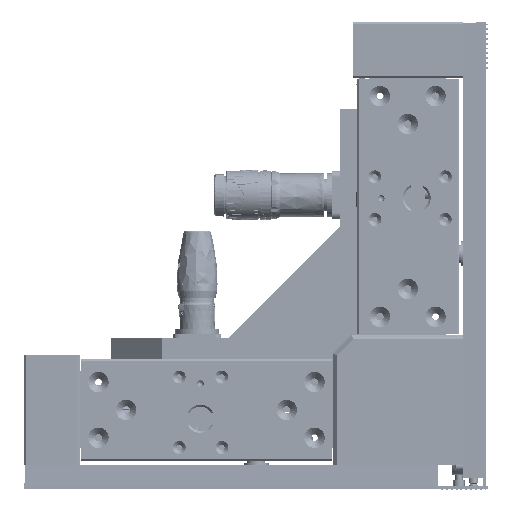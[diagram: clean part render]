
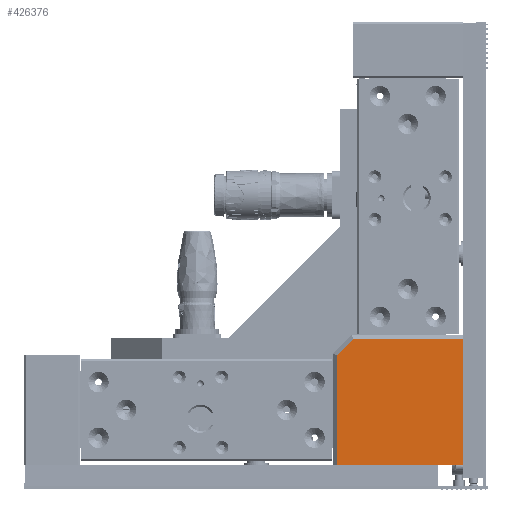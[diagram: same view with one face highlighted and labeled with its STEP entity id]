
A CAD part, front view. The second image highlights one B-rep face of the part: STEP entity #426376.
In plain terms, the highlighted planar face has unit normal (0, -1, 0).
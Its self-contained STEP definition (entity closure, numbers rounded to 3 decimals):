
#424733=DIRECTION('',(0.,0.,-1.));
#424734=VECTOR('',#424733,59.172);
#424735=CARTESIAN_POINT('',(45.9,-248.,29.422));
#424736=LINE('',#424735,#424734);
#424747=DIRECTION('',(1.,0.,0.));
#424748=VECTOR('',#424747,59.172);
#424749=CARTESIAN_POINT('',(54.728,-248.,38.25));
#424750=LINE('',#424749,#424748);
#424754=DIRECTION('',(-1.,0.,0.));
#424755=VECTOR('',#424754,68.);
#424756=CARTESIAN_POINT('',(113.9,-248.,-29.75));
#424757=LINE('',#424756,#424755);
#424761=DIRECTION('',(0.707,0.,0.707));
#424762=VECTOR('',#424761,12.485);
#424763=CARTESIAN_POINT('',(45.9,-248.,29.422));
#424764=LINE('',#424763,#424762);
#424796=DIRECTION('',(0.,0.,1.));
#424797=VECTOR('',#424796,68.);
#424798=CARTESIAN_POINT('',(113.9,-248.,-29.75));
#424799=LINE('',#424798,#424797);
#425953=CARTESIAN_POINT('',(45.9,-248.,-29.75));
#425954=VERTEX_POINT('',#425953);
#425955=CARTESIAN_POINT('',(113.9,-248.,-29.75));
#425956=VERTEX_POINT('',#425955);
#426035=CARTESIAN_POINT('',(45.9,-248.,29.422));
#426036=VERTEX_POINT('',#426035);
#426037=CARTESIAN_POINT('',(54.728,-248.,38.25));
#426038=CARTESIAN_POINT('',(113.9,-248.,38.25));
#426039=VERTEX_POINT('',#426037);
#426040=VERTEX_POINT('',#426038);
#426361=CARTESIAN_POINT('',(0.,-248.,0.));
#426362=DIRECTION('',(0.,1.,0.));
#426363=DIRECTION('',(0.,0.,-1.));
#426364=AXIS2_PLACEMENT_3D('',#426361,#426362,#426363);
#426365=PLANE('',#426364);
#426367=ORIENTED_EDGE('',*,*,#426366,.T.);
#426369=ORIENTED_EDGE('',*,*,#426368,.F.);
#426370=ORIENTED_EDGE('',*,*,#426222,.T.);
#426371=ORIENTED_EDGE('',*,*,#426352,.F.);
#426373=ORIENTED_EDGE('',*,*,#426372,.T.);
#426374=EDGE_LOOP('',(#426367,#426369,#426370,#426371,#426373));
#426375=FACE_OUTER_BOUND('',#426374,.F.);
#426222=EDGE_CURVE('',#425956,#425954,#424757,.T.);
#426352=EDGE_CURVE('',#426036,#425954,#424736,.T.);
#426366=EDGE_CURVE('',#426039,#426040,#424750,.T.);
#426368=EDGE_CURVE('',#425956,#426040,#424799,.T.);
#426372=EDGE_CURVE('',#426036,#426039,#424764,.T.);
#426376=ADVANCED_FACE('',(#426375),#426365,.F.);
